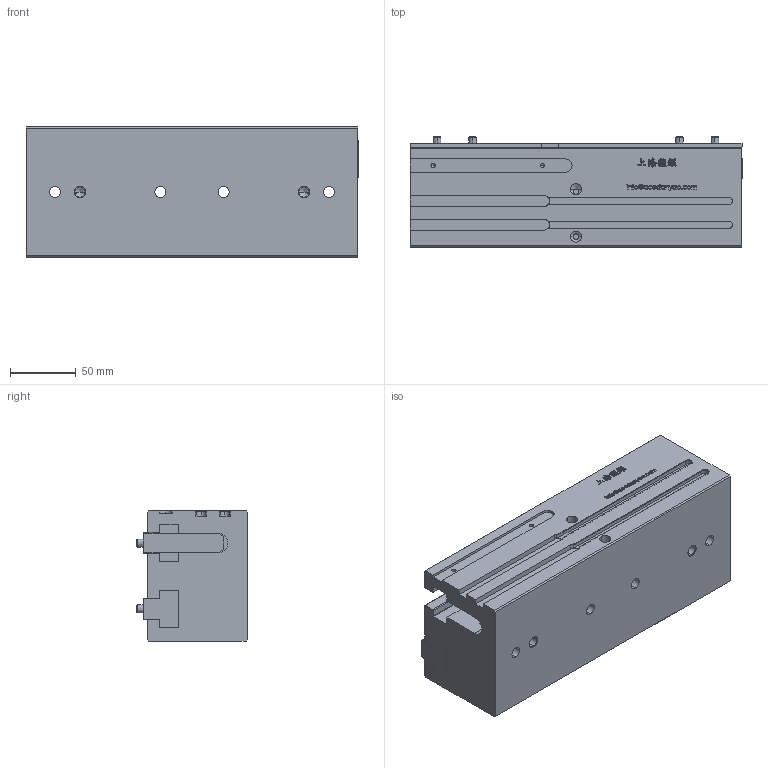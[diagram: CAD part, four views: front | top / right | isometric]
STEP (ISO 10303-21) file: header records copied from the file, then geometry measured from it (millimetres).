
FILE_DESCRIPTION (( 'STEP AP203' ), '1' );
FILE_NAME ('GPL40-100-原始檔-組合-W106.04.18.STEP', '2017-04-17T09:33:23', ( 'DanyaoCAD' ), ( '' ), 'SwSTEP 2.0', 'SolidWorks 2016', '' );
FILE_SCHEMA (( 'CONFIG_CONTROL_DESIGN' ));
Length unit declared in the file: millimetre
Products named in the file (3): Corpo; GPL40-100-原始檔-組合-W106.04.18; Griffa
Assembly tree (3 placements, depth 2):
  GPL40-100-原始檔-組合-W106.04.18
    Griffa  x2
    Corpo
Bounding box: 252 x 84 x 99 mm (x, y, z)
Volume: 1642980.3 mm3; surface area: 206196 mm2
Topology: 3 solids, 3 shells, 1025 faces, 2855 edges, 1882 vertices
Faces by surface type: bspline 640, plane 273, cylinder 76, cone 36
Entity records: 47820 total; most frequent: CARTESIAN_POINT 26699, ORIENTED_EDGE 5442, EDGE_CURVE 2721, DIRECTION 2277, VERTEX_POINT 1809, B_SPLINE_CURVE_WITH_KNOTS 1284, VECTOR 1283, LINE 1283
